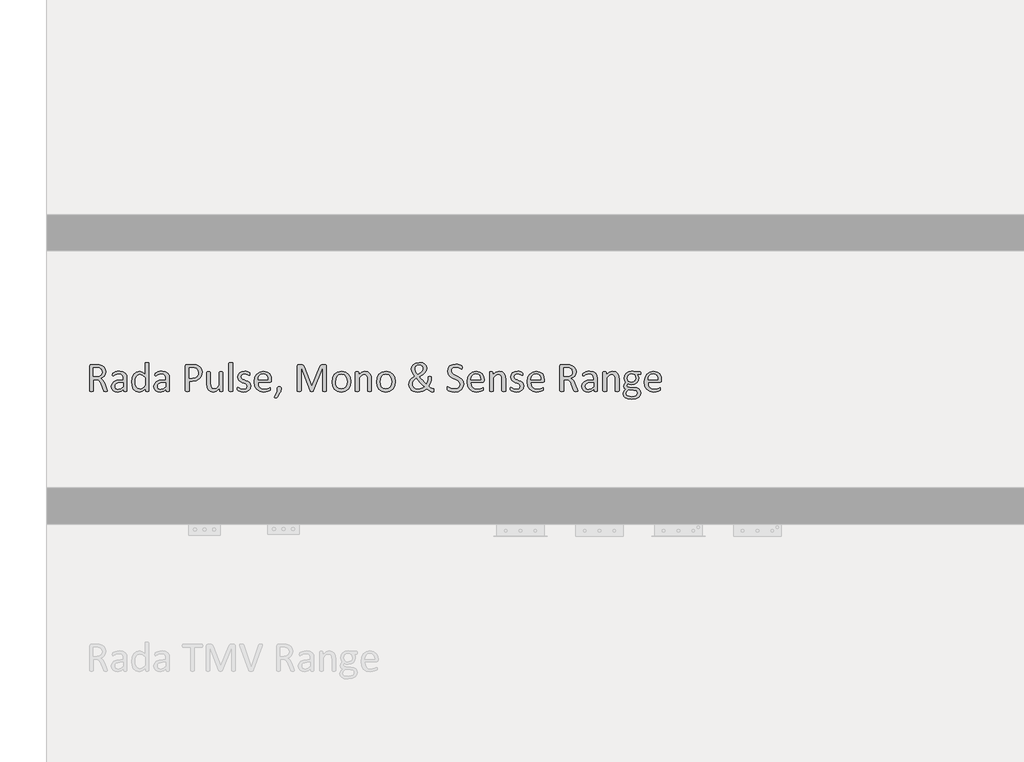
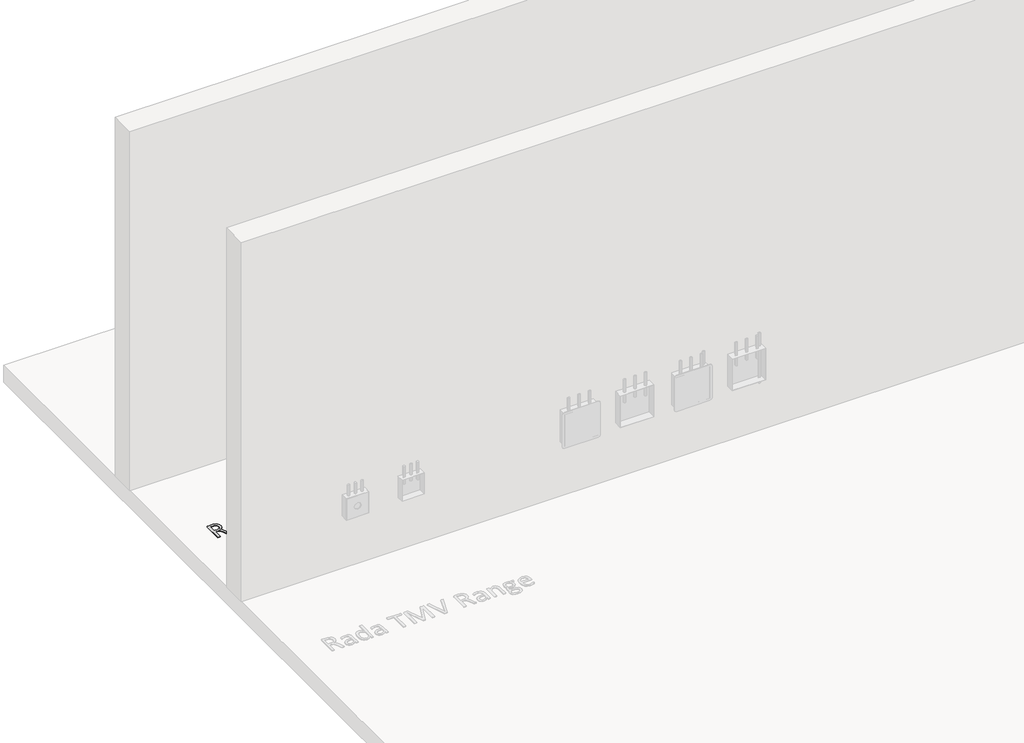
# One storey, part 3 of 3: 1 proxy.
"""IFC4 building model written with IfcOpenShell, lengths in millimetres."""

from ifc_helpers import new_model, si_unit, origin, origin_with_axes, place, context, project, spatial, polyline, outline, extrude, element, save

model = new_model("IFC4")

# Units and contexts
model_context = context("Model", 3, world=origin())
ifc_project = project(units=[si_unit("LENGTHUNIT", "METRE", prefix="MILLI")], contexts=[model_context])

# Site, building, storey
site = spatial("IfcSite", under=ifc_project)
building = spatial("IfcBuilding", under=site)
storey = spatial("IfcBuildingStorey", under=building, Name="1 Coarse & Medium", Elevation=0.0)

# Proxy
placement = place(None, origin())
element("IfcBuildingElementProxy", 1, Name="200mm Arial", ObjectType="200mm Arial", at=placement, inside=storey, context=model_context, shape_type="SweptSolid", body=[
    extrude(outline(polyline([(-2089.8724292, -5613.903187), (-2090.2566505, -5615.6962198), (-2091.9472243, -5617.0025723), (-2095.6357489, -5617.7966296), (-2101.9625931, -5618.0527772), (-2107.5209948, -5617.7966296), (-2111.0046013, -5616.9513428), (-2113.0281669, -5615.3376133), (-2114.2576751, -5612.7249083), (-2129.8826751, -5573.278187), (-2135.5435358, -5560.9318755), (-2142.4082899, -5551.2238837), (-2151.7576751, -5544.8970395), (-2164.7187407, -5542.6429411), (-2179.472839, -5542.6429411), (-2179.472839, -5613.903187), (-2180.0619784, -5615.7218346), (-2181.9318554, -5616.9513428), (-2185.415462, -5617.7197854), (-2190.9482489, -5618.0527772), (-2196.4810358, -5617.7197854), (-2200.0158718, -5616.925728), (-2201.8857489, -5615.6962198), (-2202.4236587, -5613.8519575), (-2202.4236587, -5456.7310559), (-2199.785339, -5449.5845395), (-2194.1244784, -5447.5609739), (-2158.5711997, -5447.5609739), (-2148.0691505, -5447.8939657), (-2140.4871833, -5448.6367936), (-2123.3509128, -5454.0158919), (-2110.8509128, -5463.3908919), (-2103.2945604, -5476.403187), (-2100.7843145, -5492.5404821), (-2103.0127981, -5507.9093346), (-2109.4677161, -5519.9226542), (-2119.585544, -5528.9390477), (-2132.8027571, -5535.4195805), (-2125.1695604, -5540.055851), (-2118.7914866, -5546.7669165), (-2113.2330849, -5555.7576952), (-2107.9564456, -5567.2331051), (-2092.7412817, -5604.3744985), (-2090.3847243, -5610.9318755), (-2089.8724292, -5613.903187)]), holes=[polyline([(-2123.7351341, -5494.9994985), (-2128.1152571, -5478.5548264), (-2133.9874395, -5472.7786993), (-2142.8437407, -5468.8724493), (-2150.1183308, -5467.6173264), (-2160.7740686, -5467.2331051), (-2179.472839, -5467.2331051), (-2179.472839, -5522.97081), (-2157.8027571, -5522.97081), (-2142.6388227, -5520.8704001), (-2131.9830849, -5514.9790067), (-2125.7330849, -5506.090687), (-2123.7351341, -5494.9994985)])]), origin_with_axes(), (0.0, 0.0, 1.0), 5.0),
    extrude(outline(polyline([(-1966.3580849, -5614.1081051), (-1967.4851341, -5616.4902772), (-1970.5589046, -5617.6685559), (-1976.2966095, -5618.0527772), (-1982.1111587, -5617.6685559), (-1985.2617735, -5616.4902772), (-1986.2351341, -5614.1081051), (-1986.2351341, -5602.3253182), (-2003.4994784, -5615.9523674), (-2023.6839046, -5621.3314657), (-2040.6152571, -5618.8980641), (-2053.4994784, -5611.8540067), (-2061.773044, -5600.5322854), (-2064.7187407, -5585.2658919), (-2060.6459948, -5567.8990887), (-2048.9656669, -5555.6552362), (-2030.3437407, -5548.3550313), (-2005.5486587, -5545.9216296), (-1989.3089046, -5545.9216296), (-1989.3089046, -5536.1367936), (-1990.7433308, -5523.3294165), (-1995.3539866, -5514.0568755), (-2003.5763227, -5508.4728592), (-2015.9994784, -5506.5773674), (-2030.2156669, -5508.6265477), (-2041.2300112, -5513.1347444), (-2049.1449702, -5517.6429411), (-2053.8580849, -5519.6921214), (-2055.7023472, -5519.1542116), (-2057.0599292, -5517.5148674), (-2057.9052161, -5514.6972444), (-2058.1613636, -5510.9318755), (-2057.7002981, -5505.5527772), (-2055.4461997, -5501.7874083), (-2049.2986587, -5497.9451952), (-2039.2576751, -5494.1542116), (-2026.8345194, -5491.3109739), (-2013.2330849, -5490.1839247), (-1991.460544, -5493.0783919), (-1976.9369784, -5501.5312608), (-1968.8683308, -5515.3376133), (-1966.3580849, -5534.5999083), (-1966.3580849, -5614.1081051)]), holes=[polyline([(-1989.3089046, -5562.3150723), (-2007.5466095, -5562.3150723), (-2022.7617735, -5563.8263428), (-2033.4943554, -5568.28331), (-2039.7699702, -5575.3529821), (-2041.767921, -5584.8560559), (-2040.3334948, -5593.1296214), (-2036.0302161, -5599.5076952), (-2029.1398472, -5603.5804411), (-2019.9441505, -5604.9380231), (-2004.37038, -5600.6091296), (-1989.3089046, -5587.3663018), (-1989.3089046, -5562.3150723)])]), origin_with_axes(), (0.0, 0.0, 1.0), 5.0),
    extrude(outline(polyline([(-1828.6531669, -5613.9544165), (-1829.1398472, -5615.8242936), (-1830.8048063, -5617.0794165), (-1833.9041915, -5617.7966296), (-1838.5916915, -5618.0527772), (-1843.4584948, -5617.7966296), (-1846.6347243, -5617.130646), (-1848.4277571, -5615.9779821), (-1848.9912817, -5614.2617936), (-1848.9912817, -5599.7126133), (-1868.023044, -5615.6193755), (-1889.6162817, -5621.3314657), (-1911.4400522, -5616.2341296), (-1926.0660768, -5602.4533919), (-1934.2627981, -5582.0128182), (-1936.8498882, -5557.2945805), (-1933.6224292, -5529.5025723), (-1924.0937407, -5508.3447854), (-1908.4687407, -5494.8970395), (-1886.9011177, -5490.1839247), (-1868.2791915, -5494.7689657), (-1851.6039866, -5508.2167116), (-1851.6039866, -5438.698269), (-1851.1173063, -5436.9052362), (-1849.2474292, -5435.573269), (-1845.7125931, -5434.7792116), (-1840.2822653, -5434.4462198), (-1834.5957899, -5434.7792116), (-1831.1377981, -5435.573269), (-1829.267921, -5436.8796214), (-1828.6531669, -5438.6470395), (-1828.6531669, -5613.9544165)]), holes=[polyline([(-1851.6039866, -5531.5773674), (-1868.0486587, -5515.4144575), (-1884.5957899, -5509.8560559), (-1898.1716095, -5513.7494985), (-1907.2392325, -5524.0210149), (-1912.3109538, -5538.4677362), (-1913.8990686, -5554.8355641), (-1912.5671013, -5572.1511378), (-1907.9308308, -5587.1613837), (-1899.1705849, -5597.6890477), (-1885.4666915, -5601.6593346), (-1877.4236587, -5600.5066706), (-1869.4830849, -5596.6900723), (-1861.0046013, -5589.7740887), (-1851.6039866, -5579.2720395), (-1851.6039866, -5531.5773674)])]), origin_with_axes(), (0.0, 0.0, 1.0), 5.0),
    extrude(outline(polyline([(-1697.5056259, -5614.1081051), (-1698.6326751, -5616.4902772), (-1701.7064456, -5617.6685559), (-1707.4441505, -5618.0527772), (-1713.2586997, -5617.6685559), (-1716.4093145, -5616.4902772), (-1717.3826751, -5614.1081051), (-1717.3826751, -5602.3253182), (-1734.6470194, -5615.9523674), (-1754.8314456, -5621.3314657), (-1771.7627981, -5618.8980641), (-1784.6470194, -5611.8540067), (-1792.9205849, -5600.5322854), (-1795.8662817, -5585.2658919), (-1791.7935358, -5567.8990887), (-1780.1132079, -5555.6552362), (-1761.4912817, -5548.3550313), (-1736.6961997, -5545.9216296), (-1720.4564456, -5545.9216296), (-1720.4564456, -5536.1367936), (-1721.8908718, -5523.3294165), (-1726.5015276, -5514.0568755), (-1734.7238636, -5508.4728592), (-1747.1470194, -5506.5773674), (-1761.3632079, -5508.6265477), (-1772.3775522, -5513.1347444), (-1780.2925112, -5517.6429411), (-1785.0056259, -5519.6921214), (-1786.8498882, -5519.1542116), (-1788.2074702, -5517.5148674), (-1789.0527571, -5514.6972444), (-1789.3089046, -5510.9318755), (-1788.847839, -5505.5527772), (-1786.5937407, -5501.7874083), (-1780.4461997, -5497.9451952), (-1770.4052161, -5494.1542116), (-1757.9820604, -5491.3109739), (-1744.3806259, -5490.1839247), (-1722.6080849, -5493.0783919), (-1708.0845194, -5501.5312608), (-1700.0158718, -5515.3376133), (-1697.5056259, -5534.5999083), (-1697.5056259, -5614.1081051)]), holes=[polyline([(-1720.4564456, -5562.3150723), (-1738.6941505, -5562.3150723), (-1753.9093145, -5563.8263428), (-1764.6418964, -5568.28331), (-1770.9175112, -5575.3529821), (-1772.915462, -5584.8560559), (-1771.4810358, -5593.1296214), (-1767.1777571, -5599.5076952), (-1760.2873882, -5603.5804411), (-1751.0916915, -5604.9380231), (-1735.517921, -5600.6091296), (-1720.4564456, -5587.3663018), (-1720.4564456, -5562.3150723)])]), origin_with_axes(), (0.0, 0.0, 1.0), 5.0),
    extrude(outline(polyline([(-1490.9482489, -5497.1511378), (-1495.1490686, -5520.050728), (-1507.188003, -5537.443146), (-1526.3990686, -5548.5599493), (-1553.5507079, -5552.4790067), (-1572.915462, -5552.4790067), (-1572.915462, -5613.8519575), (-1573.5046013, -5615.6706051), (-1575.3744784, -5616.925728), (-1578.8580849, -5617.7197854), (-1584.3908718, -5618.0527772), (-1589.9236587, -5617.7197854), (-1593.4584948, -5616.925728), (-1595.3283718, -5615.6962198), (-1595.8662817, -5613.8519575), (-1595.8662817, -5457.243351), (-1593.0998882, -5449.7894575), (-1586.9011177, -5447.5609739), (-1550.3232489, -5447.5609739), (-1539.7187407, -5448.0220395), (-1527.705421, -5449.9943755), (-1513.5660768, -5455.6040067), (-1501.3734538, -5465.7218346), (-1493.6634128, -5479.6562608), (-1490.9482489, -5497.1511378)]), holes=[polyline([(-1513.8990686, -5498.9441706), (-1517.8437407, -5482.2689657), (-1527.602962, -5472.3048264), (-1539.6162817, -5468.1296214), (-1551.7064456, -5467.2331051), (-1572.915462, -5467.2331051), (-1572.915462, -5532.8068755), (-1552.2187407, -5532.8068755), (-1534.9287817, -5530.2710149), (-1523.3765276, -5523.2525723), (-1516.3068554, -5512.5199903), (-1513.8990686, -5498.9441706)])]), origin_with_axes(), (0.0, 0.0, 1.0), 5.0),
    extrude(outline(polyline([(-1359.8007079, -5614.0568755), (-1360.2873882, -5615.7986788), (-1362.0035768, -5617.028187), (-1365.2566505, -5617.7966296), (-1370.1490686, -5618.0527772), (-1375.3744784, -5617.7966296), (-1378.5507079, -5617.028187), (-1380.1388227, -5615.7986788), (-1380.5486587, -5614.0568755), (-1380.5486587, -5598.6367936), (-1400.1951751, -5615.9011378), (-1419.8416915, -5621.3314657), (-1439.4113636, -5617.3867936), (-1452.2699702, -5606.7054411), (-1459.3140276, -5590.9779821), (-1461.4400522, -5569.1285969), (-1461.4400522, -5497.5097444), (-1460.9533718, -5495.7679411), (-1459.0834948, -5494.4615887), (-1455.4974292, -5493.6675313), (-1449.9646423, -5493.4626133), (-1444.4318554, -5493.6675313), (-1440.9226341, -5494.4359739), (-1439.0527571, -5495.7167116), (-1438.4892325, -5497.5097444), (-1438.4892325, -5565.5425313), (-1437.0548063, -5581.9615887), (-1432.6490686, -5592.4892526), (-1425.1695604, -5599.2515477), (-1414.6162817, -5601.6593346), (-1399.1193554, -5595.8960149), (-1382.7515276, -5578.9646624), (-1382.7515276, -5497.4585149), (-1382.2648472, -5495.7167116), (-1380.3949702, -5494.4359739), (-1376.8601341, -5493.6675313), (-1371.2761177, -5493.4626133), (-1365.7433308, -5493.6675313), (-1362.285339, -5494.4359739), (-1360.415462, -5495.7167116), (-1359.8007079, -5497.4585149), (-1359.8007079, -5614.0568755)])), origin_with_axes(), (0.0, 0.0, 1.0), 5.0),
    extrude(outline(polyline([(-1297.5056259, -5614.005646), (-1298.0691505, -5615.7474493), (-1299.8877981, -5617.0025723), (-1303.3457899, -5617.7966296), (-1309.0322653, -5618.0527772), (-1314.6162817, -5617.7966296), (-1318.1511177, -5617.0025723), (-1319.9697653, -5615.7474493), (-1320.4564456, -5614.005646), (-1320.4564456, -5438.6470395), (-1319.9697653, -5436.8027772), (-1318.1511177, -5435.4964247), (-1314.6162817, -5434.7023674), (-1309.0322653, -5434.4462198), (-1303.3457899, -5434.7023674), (-1299.8877981, -5435.4964247), (-1298.0691505, -5436.8027772), (-1297.5056259, -5438.6470395), (-1297.5056259, -5614.005646)])), origin_with_axes(), (0.0, 0.0, 1.0), 5.0),
    extrude(outline(polyline([(-1182.7515276, -5583.0117936), (-1186.1582899, -5599.3283919), (-1195.8662817, -5611.3929411), (-1210.8509128, -5618.8212198), (-1229.9851341, -5621.3314657), (-1242.2546013, -5620.153187), (-1252.6798063, -5617.1562608), (-1260.4923063, -5613.3652772), (-1265.1798063, -5609.8048264), (-1267.3314456, -5606.0394575), (-1267.9974292, -5600.0712198), (-1267.7412817, -5596.2033919), (-1267.0752981, -5593.6675313), (-1265.9482489, -5592.2587198), (-1264.3089046, -5591.823269), (-1260.0568554, -5593.8724493), (-1253.0896423, -5598.380646), (-1243.2791915, -5602.8888428), (-1230.2925112, -5604.9380231), (-1220.3027571, -5603.6829001), (-1212.5414866, -5599.9687608), (-1207.4697653, -5593.7187608), (-1205.7023472, -5584.7535969), (-1208.2382079, -5576.2751133), (-1214.9748882, -5570.153187), (-1224.375503, -5565.4400723), (-1235.1336997, -5561.1367936), (-1245.9687407, -5556.0394575), (-1255.4461997, -5549.0722444), (-1262.18288, -5539.2617936), (-1264.7187407, -5525.5835149), (-1262.0035768, -5512.135769), (-1253.8580849, -5500.8652772), (-1240.2822653, -5493.1040067), (-1221.2248882, -5490.1839247), (-1211.6961997, -5491.0548264), (-1203.0896423, -5493.2576952), (-1196.5322653, -5496.1265477), (-1192.4339046, -5498.8417116), (-1190.5896423, -5500.7884329), (-1189.9236587, -5502.4790067), (-1189.5138227, -5504.8099493), (-1189.3089046, -5508.2167116), (-1189.5138227, -5511.930851), (-1190.1798063, -5514.5179411), (-1191.3324702, -5515.9779821), (-1196.3785768, -5514.8509329), (-1202.3468145, -5511.4954001), (-1210.9533718, -5508.1398674), (-1222.2494784, -5506.5773674), (-1232.290462, -5507.8837198), (-1239.4113636, -5511.5978592), (-1243.6121833, -5517.2843346), (-1245.0466095, -5524.4052362), (-1242.3314456, -5533.0886378), (-1235.2361587, -5539.2617936), (-1225.2720194, -5544.0261378), (-1213.8990686, -5548.380646), (-1202.4492735, -5553.4267526), (-1192.4339046, -5560.1890477), (-1185.415462, -5569.743351), (-1182.7515276, -5583.0117936)])), origin_with_axes(), (0.0, 0.0, 1.0), 5.0),
    extrude(outline(polyline([(-1051.6039866, -5549.6613837), (-1054.1398472, -5556.8847444), (-1059.9543964, -5559.0363837), (-1136.8498882, -5559.0363837), (-1134.9287817, -5577.9913018), (-1128.5507079, -5592.4380231), (-1116.9216095, -5601.7105641), (-1099.4011177, -5604.9380231), (-1084.8519374, -5603.4267526), (-1073.7863636, -5600.0199903), (-1066.1275522, -5596.613228), (-1061.5937407, -5595.1019575), (-1060.0056259, -5595.5374083), (-1058.9041915, -5596.818146), (-1058.3406669, -5599.2003182), (-1058.1613636, -5602.9400723), (-1058.2894374, -5605.680851), (-1058.6224292, -5607.755646), (-1059.2627981, -5609.4206051), (-1060.415462, -5610.8294165), (-1064.5906669, -5613.3140477), (-1073.5814456, -5616.8488837), (-1086.3888227, -5619.948269), (-1101.9113636, -5621.3314657), (-1126.9369784, -5617.2331051), (-1144.99538, -5605.0404821), (-1156.0609538, -5584.7279821), (-1159.8007079, -5556.3724493), (-1155.8816505, -5528.7085149), (-1144.585544, -5507.9093346), (-1126.7576751, -5494.7689657), (-1103.3457899, -5490.1839247), (-1079.7802161, -5494.6152772), (-1063.7709948, -5506.5517526), (-1054.5496833, -5524.1490887), (-1051.6039866, -5545.7167116), (-1051.6039866, -5549.6613837)]), holes=[polyline([(-1074.5548063, -5542.6429411), (-1076.2133616, -5527.6006768), (-1081.9062407, -5516.1829001), (-1091.4925624, -5508.9787505), (-1104.8314456, -5506.5773674), (-1118.4841095, -5509.5486788), (-1128.2945604, -5517.4636378), (-1134.4164866, -5528.9646624), (-1136.8498882, -5542.6429411), (-1074.5548063, -5542.6429411)])]), origin_with_axes(), (0.0, 0.0, 1.0), 5.0),
    extrude(outline(polyline([(-989.7699702, -5599.4052362), (-990.1798063, -5607.0384329), (-991.5117735, -5613.59581), (-993.9195604, -5619.6921214), (-997.6593145, -5626.0445805), (-1015.6408718, -5653.6572854), (-1017.1521423, -5655.2454001), (-1019.2525522, -5656.4492936), (-1022.1470194, -5657.1921214), (-1026.2966095, -5657.3970395), (-1030.0107489, -5657.1921214), (-1032.188003, -5656.5261378), (-1032.4441505, -5653.4011378), (-1014.9748882, -5616.5158919), (-1014.9748882, -5599.4052362), (-1014.2576751, -5593.6419165), (-1011.977962, -5590.4400723), (-1008.0332899, -5588.9544165), (-1002.2699702, -5588.5445805), (-996.6091095, -5588.9544165), (-992.7156669, -5590.4400723), (-990.4871833, -5593.6419165), (-989.7699702, -5599.4052362)])), origin_with_axes(), (0.0, 0.0, 1.0), 5.0),
    extrude(outline(polyline([(-704.063003, -5613.8519575), (-704.6009128, -5615.6962198), (-706.5220194, -5616.925728), (-710.0312407, -5617.7197854), (-715.5896423, -5618.0527772), (-721.0455849, -5617.7197854), (-724.6316505, -5616.925728), (-726.4759128, -5615.6962198), (-727.0138227, -5613.8519575), (-727.0138227, -5466.0548264), (-785.62038, -5614.5179411), (-786.7474292, -5616.0804411), (-788.847839, -5617.1818755), (-792.1265276, -5617.8478592), (-796.6347243, -5618.0527772), (-801.3734538, -5617.7966296), (-804.6777571, -5617.0794165), (-806.7269374, -5615.9523674), (-807.7002981, -5614.5179411), (-864.6162817, -5466.0548264), (-864.6162817, -5613.8519575), (-865.2566505, -5615.6962198), (-867.1777571, -5616.925728), (-870.7638227, -5617.7197854), (-876.3990686, -5618.0527772), (-881.8806259, -5617.7197854), (-885.3898472, -5616.925728), (-887.18288, -5615.6962198), (-887.6695604, -5613.8519575), (-887.6695604, -5457.8068755), (-884.7238636, -5449.9175313), (-878.1408718, -5447.5609739), (-864.1552161, -5447.5609739), (-856.6244784, -5448.3550313), (-850.9892325, -5450.8396624), (-846.9677161, -5455.1685559), (-844.1244784, -5461.3417116), (-795.8662817, -5584.2413018), (-746.1736587, -5461.7003182), (-742.9461997, -5455.0148674), (-739.1039866, -5450.6347444), (-734.4677161, -5448.278187), (-728.5507079, -5447.5609739), (-713.8990686, -5447.5609739), (-710.0312407, -5448.1501133), (-706.9574702, -5449.9943755), (-704.8826751, -5453.1449903), (-704.063003, -5457.8068755), (-704.063003, -5613.8519575)])), origin_with_axes(), (0.0, 0.0, 1.0), 5.0),
    extrude(outline(polyline([(-549.9646423, -5554.4769575), (-553.7556259, -5581.3468346), (-565.102962, -5602.5046214), (-584.0066505, -5616.3622034), (-610.313003, -5621.3314657), (-635.6716095, -5616.9513428), (-653.7043964, -5604.22081), (-664.4625931, -5583.9339247), (-667.9974292, -5556.8847444), (-664.2576751, -5530.0148674), (-652.9871833, -5508.8826952), (-634.160339, -5495.1019575), (-607.8027571, -5490.1839247), (-582.4185358, -5494.5640477), (-564.3857489, -5507.2945805), (-553.5763227, -5527.5814657), (-549.9646423, -5554.4769575)]), holes=[polyline([(-572.915462, -5556.0138428), (-574.68288, -5538.2115887), (-580.4974292, -5523.5087198), (-591.4349292, -5513.5189657), (-608.6736587, -5509.8560559), (-625.0414866, -5513.2115887), (-636.3119784, -5522.6890477), (-642.8949702, -5537.1869985), (-645.0466095, -5555.5015477), (-643.2791915, -5573.4062608), (-637.4134128, -5588.0579001), (-626.3990686, -5597.9964247), (-609.1859538, -5601.6593346), (-592.8693554, -5598.3038018), (-581.5220194, -5588.903187), (-574.9902571, -5574.4564657), (-572.915462, -5556.0138428)])]), origin_with_axes(), (0.0, 0.0, 1.0), 5.0),
    extrude(outline(polyline([(-418.8171013, -5614.005646), (-419.3806259, -5615.7474493), (-421.1992735, -5617.0025723), (-424.6572653, -5617.7966296), (-430.2412817, -5618.0527772), (-435.9277571, -5617.7966296), (-439.3857489, -5617.028187), (-441.2043964, -5615.7986788), (-441.767921, -5614.005646), (-441.767921, -5545.5630231), (-443.2791915, -5529.4769575), (-447.6593145, -5518.9492936), (-455.1132079, -5512.1869985), (-465.6921013, -5509.8560559), (-481.2402571, -5515.568146), (-497.5056259, -5532.34581), (-497.5056259, -5614.005646), (-498.0691505, -5615.7986788), (-499.8877981, -5617.028187), (-503.3457899, -5617.7966296), (-509.0322653, -5618.0527772), (-514.6162817, -5617.7966296), (-518.1511177, -5617.028187), (-519.9697653, -5615.7986788), (-520.4564456, -5614.0568755), (-520.4564456, -5497.4585149), (-520.0466095, -5495.7167116), (-518.3816505, -5494.4359739), (-515.1798063, -5493.6675313), (-510.0056259, -5493.4626133), (-504.9339046, -5493.6675313), (-501.8089046, -5494.4359739), (-500.1951751, -5495.7167116), (-499.7084948, -5497.4585149), (-499.7084948, -5512.8785969), (-480.1132079, -5495.6398674), (-460.415462, -5490.1839247), (-440.8457899, -5494.1798264), (-427.9871833, -5504.8611788), (-420.9431259, -5520.5117936), (-418.8171013, -5542.0794165), (-418.8171013, -5614.005646)])), origin_with_axes(), (0.0, 0.0, 1.0), 5.0),
    extrude(outline(polyline([(-267.9974292, -5554.4769575), (-271.7884128, -5581.3468346), (-283.1357489, -5602.5046214), (-302.0394374, -5616.3622034), (-328.3457899, -5621.3314657), (-353.7043964, -5616.9513428), (-371.7371833, -5604.22081), (-382.49538, -5583.9339247), (-386.0302161, -5556.8847444), (-382.290462, -5530.0148674), (-371.0199702, -5508.8826952), (-352.1931259, -5495.1019575), (-325.835544, -5490.1839247), (-300.4513227, -5494.5640477), (-282.4185358, -5507.2945805), (-271.6091095, -5527.5814657), (-267.9974292, -5554.4769575)]), holes=[polyline([(-290.9482489, -5556.0138428), (-292.7156669, -5538.2115887), (-298.5302161, -5523.5087198), (-309.4677161, -5513.5189657), (-326.7064456, -5509.8560559), (-343.0742735, -5513.2115887), (-354.3447653, -5522.6890477), (-360.9277571, -5537.1869985), (-363.0793964, -5555.5015477), (-361.3119784, -5573.4062608), (-355.4461997, -5588.0579001), (-344.4318554, -5597.9964247), (-327.2187407, -5601.6593346), (-310.9021423, -5598.3038018), (-299.5548063, -5588.903187), (-293.023044, -5574.4564657), (-290.9482489, -5556.0138428)])]), origin_with_axes(), (0.0, 0.0, 1.0), 5.0),
    extrude(outline(polyline([(-181.6757079, -5572.4072854), (-179.7033718, -5558.1910969), (-173.5302161, -5545.1275723), (-162.5671013, -5532.8581051), (-146.2248882, -5520.9216296), (-155.2412817, -5507.6019575), (-161.4144374, -5496.4339247), (-164.898044, -5486.5466296), (-165.9482489, -5477.0691706), (-163.1818554, -5460.9318755), (-154.3191505, -5447.3304411), (-138.642921, -5437.9298264), (-115.3847243, -5434.4462198), (-95.3796013, -5437.03331), (-81.3171013, -5444.3847444), (-72.915462, -5455.9113837), (-70.097839, -5470.9728592), (-72.5824702, -5485.675728), (-80.5998882, -5498.6111788), (-94.7136177, -5511.0855641), (-115.5384128, -5524.0978592), (-105.830421, -5535.7269575), (-94.8673063, -5547.9195805), (-83.1613636, -5559.9841296), (-71.4298063, -5571.3314657), (-66.665462, -5563.1859739), (-63.0025522, -5553.5548264), (-60.6459948, -5543.180851), (-59.8519374, -5532.4994985), (-59.8519374, -5527.7351542), (-59.3908718, -5525.5579001), (-57.8796013, -5524.0978592), (-54.8058308, -5523.2269575), (-49.5035768, -5522.97081), (-44.5599292, -5523.0988837), (-41.2300112, -5523.6880231), (-39.3345194, -5525.1480641), (-38.74538, -5527.8888428), (-38.74538, -5531.2187608), (-39.9748882, -5545.8447854), (-43.3816505, -5559.8816706), (-48.7607489, -5572.97081), (-55.9072653, -5584.5486788), (-45.6101341, -5592.6941706), (-38.1306259, -5597.9964247), (-33.0076751, -5600.8396624), (-29.6777571, -5601.6593346), (-27.1675112, -5601.5312608), (-25.2720194, -5601.9410969), (-24.1705849, -5604.1439657), (-23.7863636, -5609.2413018), (-23.9144374, -5614.7228592), (-24.3498882, -5617.8222444), (-25.4513227, -5619.5640477), (-28.3457899, -5620.7935559), (-33.8785768, -5621.3314657), (-39.6418964, -5620.3837198), (-46.9933308, -5617.028187), (-56.7781669, -5610.4964247), (-69.8416915, -5600.0712198), (-81.4707899, -5608.6521624), (-94.4574702, -5615.4144575), (-108.9041915, -5619.7689657), (-125.2207899, -5621.3314657), (-140.9226341, -5619.84581), (-154.6265276, -5615.5425313), (-165.9226341, -5608.5240887), (-174.4011177, -5598.9441706), (-179.7802161, -5586.8796214), (-181.6757079, -5572.4072854)]), holes=[polyline([(-158.2125931, -5569.7945805), (-155.9072653, -5582.6275723), (-149.1449702, -5592.6941706), (-137.9769374, -5599.3027772), (-122.5056259, -5601.6593346), (-111.977962, -5600.5579001), (-102.2187407, -5597.5353592), (-93.3560358, -5592.9503182), (-85.5691505, -5587.2638428), (-99.1961997, -5574.53331), (-112.2597243, -5561.2648674), (-124.4011177, -5547.97081), (-135.1080849, -5535.1122034), (-146.0455849, -5543.6675313), (-153.1152571, -5552.1716296), (-157.0086997, -5560.7525723), (-158.2125931, -5569.7945805)]), polyline([(-142.9461997, -5473.9954001), (-141.972839, -5481.7822854), (-138.9502981, -5490.0302362), (-133.955421, -5499.2771624), (-126.9625931, -5510.3171214), (-110.8765276, -5499.6613837), (-100.4257079, -5490.260769), (-94.7136177, -5481.2187608), (-92.9461997, -5471.5876133), (-94.3293964, -5463.7494985), (-98.7351341, -5457.1152772), (-106.3427161, -5452.5302362), (-117.3826751, -5450.8396624), (-129.0886177, -5452.7351542), (-136.977962, -5457.8324903), (-141.5117735, -5465.260769), (-142.9461997, -5473.9954001)])]), origin_with_axes(), (0.0, 0.0, 1.0), 5.0),
    extrude(outline(polyline([(164.789456, -5570.5630231), (160.3837183, -5592.0794165), (148.1142511, -5608.0886378), (129.6460134, -5618.0015477), (106.7976528, -5621.3314657), (90.9165052, -5620.050728), (77.8529806, -5616.9001133), (68.2218331, -5613.0322854), (62.81712, -5609.6255231), (60.5886364, -5605.680851), (59.8714232, -5598.9441706), (60.1275708, -5593.9492936), (60.9216282, -5590.7474493), (62.2535954, -5589.0312608), (64.1234724, -5588.5445805), (69.374497, -5590.5937608), (78.1091282, -5595.050728), (90.94212, -5599.5589247), (108.2833085, -5601.6593346), (121.9359724, -5599.6613837), (132.5660954, -5594.0261378), (139.4308495, -5585.1122034), (141.8386364, -5573.073269), (138.4574888, -5560.573269), (129.5691692, -5551.4800313), (116.9923249, -5544.3079001), (102.4943741, -5537.6480641), (88.0732675, -5530.1429411), (75.5476528, -5520.4605641), (66.5824888, -5507.34581), (63.1501118, -5489.3642526), (67.0691692, -5470.1275723), (77.9554396, -5455.988228), (94.5538003, -5447.2792116), (115.3529806, -5444.2822854), (126.8540052, -5445.3837198), (137.7402757, -5448.3038018), (146.8591282, -5452.3765477), (152.1101528, -5456.0138428), (153.749497, -5458.1398674), (154.4154806, -5460.0353592), (154.8253167, -5462.8273674), (154.9533905, -5467.028187), (154.7484724, -5471.3826952), (154.1593331, -5474.5589247), (153.0322839, -5476.4544165), (151.3673249, -5477.0691706), (146.7566692, -5475.0712198), (139.0722429, -5470.5886378), (128.3140462, -5466.0292116), (114.37962, -5463.9544165), (101.8540052, -5465.8242936), (93.0425298, -5470.7935559), (87.8427347, -5478.1706051), (86.1009314, -5487.2126133), (89.4308495, -5499.5589247), (98.3191692, -5508.7290067), (110.9472429, -5516.0548264), (125.3683495, -5522.7658919), (139.8150708, -5530.2197854), (152.4431446, -5539.7997034), (161.3826937, -5552.8119985), (164.789456, -5570.5630231)])), origin_with_axes(), (0.0, 0.0, 1.0), 5.0),
    extrude(outline(polyline([(295.936997, -5549.6613837), (293.4011364, -5556.8847444), (287.5865872, -5559.0363837), (210.6910954, -5559.0363837), (212.6122019, -5577.9913018), (218.9902757, -5592.4380231), (230.6193741, -5601.7105641), (248.1398659, -5604.9380231), (262.6890462, -5603.4267526), (273.75462, -5600.0199903), (281.4134314, -5596.613228), (285.9472429, -5595.1019575), (287.5353577, -5595.5374083), (288.6367921, -5596.818146), (289.2003167, -5599.2003182), (289.37962, -5602.9400723), (289.2515462, -5605.680851), (288.9185544, -5607.755646), (288.2781855, -5609.4206051), (287.1255216, -5610.8294165), (282.9503167, -5613.3140477), (273.959538, -5616.8488837), (261.152161, -5619.948269), (245.62962, -5621.3314657), (220.6040052, -5617.2331051), (202.5456036, -5605.0404821), (191.4800298, -5584.7279821), (187.7402757, -5556.3724493), (191.6593331, -5528.7085149), (202.9554396, -5507.9093346), (220.7833085, -5494.7689657), (244.1951937, -5490.1839247), (267.7607675, -5494.6152772), (283.7699888, -5506.5517526), (292.9913003, -5524.1490887), (295.936997, -5545.7167116), (295.936997, -5549.6613837)]), holes=[polyline([(272.9861773, -5542.6429411), (271.327622, -5527.6006768), (265.6347429, -5516.1829001), (256.0484212, -5508.9787505), (242.709538, -5506.5773674), (229.0568741, -5509.5486788), (219.2464232, -5517.4636378), (213.124497, -5528.9646624), (210.6910954, -5542.6429411), (272.9861773, -5542.6429411)])]), origin_with_axes(), (0.0, 0.0, 1.0), 5.0),
    extrude(outline(polyline([(430.3632265, -5614.005646), (429.7997019, -5615.7474493), (427.9810544, -5617.0025723), (424.5230626, -5617.7966296), (418.9390462, -5618.0527772), (413.2525708, -5617.7966296), (409.794579, -5617.028187), (407.9759314, -5615.7986788), (407.4124069, -5614.005646), (407.4124069, -5545.5630231), (405.9011364, -5529.4769575), (401.5210134, -5518.9492936), (394.06712, -5512.1869985), (383.4882265, -5509.8560559), (367.9400708, -5515.568146), (351.6747019, -5532.34581), (351.6747019, -5614.005646), (351.1111773, -5615.7986788), (349.2925298, -5617.028187), (345.834538, -5617.7966296), (340.1480626, -5618.0527772), (334.5640462, -5617.7966296), (331.0292101, -5617.028187), (329.2105626, -5615.7986788), (328.7238823, -5614.0568755), (328.7238823, -5497.4585149), (329.1337183, -5495.7167116), (330.7986773, -5494.4359739), (334.0005216, -5493.6675313), (339.1747019, -5493.4626133), (344.2464232, -5493.6675313), (347.3714232, -5494.4359739), (348.9851528, -5495.7167116), (349.4718331, -5497.4585149), (349.4718331, -5512.8785969), (369.06712, -5495.6398674), (388.7648659, -5490.1839247), (408.334538, -5494.1798264), (421.1931446, -5504.8611788), (428.2372019, -5520.5117936), (430.3632265, -5542.0794165), (430.3632265, -5614.005646)])), origin_with_axes(), (0.0, 0.0, 1.0), 5.0),
    extrude(outline(polyline([(545.1173249, -5583.0117936), (541.7105626, -5599.3283919), (532.0025708, -5611.3929411), (517.0179396, -5618.8212198), (497.8837183, -5621.3314657), (485.6142511, -5620.153187), (475.1890462, -5617.1562608), (467.3765462, -5613.3652772), (462.6890462, -5609.8048264), (460.5374069, -5606.0394575), (459.8714232, -5600.0712198), (460.1275708, -5596.2033919), (460.7935544, -5593.6675313), (461.9206036, -5592.2587198), (463.5599478, -5591.823269), (467.811997, -5593.8724493), (474.7792101, -5598.380646), (484.589661, -5602.8888428), (497.5763413, -5604.9380231), (507.5660954, -5603.6829001), (515.3273659, -5599.9687608), (520.3990872, -5593.7187608), (522.1665052, -5584.7535969), (519.6306446, -5576.2751133), (512.8939642, -5570.153187), (503.4933495, -5565.4400723), (492.7351528, -5561.1367936), (481.9001118, -5556.0394575), (472.4226528, -5549.0722444), (465.6859724, -5539.2617936), (463.1501118, -5525.5835149), (465.8652757, -5512.135769), (474.0107675, -5500.8652772), (487.5865872, -5493.1040067), (506.6439642, -5490.1839247), (516.1726528, -5491.0548264), (524.7792101, -5493.2576952), (531.3365872, -5496.1265477), (535.4349478, -5498.8417116), (537.2792101, -5500.7884329), (537.9451937, -5502.4790067), (538.3550298, -5504.8099493), (538.5599478, -5508.2167116), (538.3550298, -5511.930851), (537.6890462, -5514.5179411), (536.5363823, -5515.9779821), (531.4902757, -5514.8509329), (525.522038, -5511.4954001), (516.9154806, -5508.1398674), (505.6193741, -5506.5773674), (495.5783905, -5507.8837198), (488.4574888, -5511.5978592), (484.2566692, -5517.2843346), (482.8222429, -5524.4052362), (485.5374069, -5533.0886378), (492.6326937, -5539.2617936), (502.5968331, -5544.0261378), (513.9697839, -5548.380646), (525.419579, -5553.4267526), (535.4349478, -5560.1890477), (542.4533905, -5569.743351), (545.1173249, -5583.0117936)])), origin_with_axes(), (0.0, 0.0, 1.0), 5.0),
    extrude(outline(polyline([(676.2648659, -5549.6613837), (673.7290052, -5556.8847444), (667.914456, -5559.0363837), (591.0189642, -5559.0363837), (592.9400708, -5577.9913018), (599.3181446, -5592.4380231), (610.9472429, -5601.7105641), (628.4677347, -5604.9380231), (643.0169151, -5603.4267526), (654.0824888, -5600.0199903), (661.7413003, -5596.613228), (666.2751118, -5595.1019575), (667.8632265, -5595.5374083), (668.964661, -5596.818146), (669.5281855, -5599.2003182), (669.7074888, -5602.9400723), (669.5794151, -5605.680851), (669.2464232, -5607.755646), (668.6060544, -5609.4206051), (667.4533905, -5610.8294165), (663.2781855, -5613.3140477), (654.2874069, -5616.8488837), (641.4800298, -5619.948269), (625.9574888, -5621.3314657), (600.9318741, -5617.2331051), (582.8734724, -5605.0404821), (571.8078987, -5584.7279821), (568.0681446, -5556.3724493), (571.9872019, -5528.7085149), (583.2833085, -5507.9093346), (601.1111773, -5494.7689657), (624.5230626, -5490.1839247), (648.0886364, -5494.6152772), (664.0978577, -5506.5517526), (673.3191692, -5524.1490887), (676.2648659, -5545.7167116), (676.2648659, -5549.6613837)]), holes=[polyline([(653.3140462, -5542.6429411), (651.6554909, -5527.6006768), (645.9626118, -5516.1829001), (636.3762901, -5508.9787505), (623.0374069, -5506.5773674), (609.3847429, -5509.5486788), (599.5742921, -5517.4636378), (593.4523659, -5528.9646624), (591.0189642, -5542.6429411), (653.3140462, -5542.6429411)])]), origin_with_axes(), (0.0, 0.0, 1.0), 5.0),
    extrude(outline(polyline([(887.1767511, -5613.903187), (886.7925298, -5615.6962198), (885.101956, -5617.0025723), (881.4134314, -5617.7966296), (875.0865872, -5618.0527772), (869.5281855, -5617.7966296), (866.044579, -5616.9513428), (864.0210134, -5615.3376133), (862.7915052, -5612.7249083), (847.1665052, -5573.278187), (841.5056446, -5560.9318755), (834.6408905, -5551.2238837), (825.2915052, -5544.8970395), (812.3304396, -5542.6429411), (797.5763413, -5542.6429411), (797.5763413, -5613.903187), (796.9872019, -5615.7218346), (795.1173249, -5616.9513428), (791.6337183, -5617.7197854), (786.1009314, -5618.0527772), (780.5681446, -5617.7197854), (777.0333085, -5616.925728), (775.1634314, -5615.6962198), (774.6255216, -5613.8519575), (774.6255216, -5456.7310559), (777.2638413, -5449.5845395), (782.9247019, -5447.5609739), (818.4779806, -5447.5609739), (828.9800298, -5447.8939657), (836.561997, -5448.6367936), (853.6982675, -5454.0158919), (866.1982675, -5463.3908919), (873.75462, -5476.403187), (876.2648659, -5492.5404821), (874.0363823, -5507.9093346), (867.5814642, -5519.9226542), (857.4636364, -5528.9390477), (844.2464232, -5535.4195805), (851.87962, -5540.055851), (858.2576937, -5546.7669165), (863.8160954, -5555.7576952), (869.0927347, -5567.2331051), (884.3078987, -5604.3744985), (886.664456, -5610.9318755), (887.1767511, -5613.903187)]), holes=[polyline([(853.3140462, -5494.9994985), (848.9339232, -5478.5548264), (843.0617409, -5472.7786993), (834.2054396, -5468.8724493), (826.9308495, -5467.6173264), (816.2751118, -5467.2331051), (797.5763413, -5467.2331051), (797.5763413, -5522.97081), (819.2464232, -5522.97081), (834.4103577, -5520.8704001), (845.0660954, -5514.9790067), (851.3160954, -5506.090687), (853.3140462, -5494.9994985)])]), origin_with_axes(), (0.0, 0.0, 1.0), 5.0),
    extrude(outline(polyline([(1010.6910954, -5614.1081051), (1009.5640462, -5616.4902772), (1006.4902757, -5617.6685559), (1000.7525708, -5618.0527772), (994.9380216, -5617.6685559), (991.7874069, -5616.4902772), (990.8140462, -5614.1081051), (990.8140462, -5602.3253182), (973.5497019, -5615.9523674), (953.3652757, -5621.3314657), (936.4339232, -5618.8980641), (923.5497019, -5611.8540067), (915.2761364, -5600.5322854), (912.3304396, -5585.2658919), (916.4031855, -5567.8990887), (928.0835134, -5555.6552362), (946.7054396, -5548.3550313), (971.5005216, -5545.9216296), (987.7402757, -5545.9216296), (987.7402757, -5536.1367936), (986.3058495, -5523.3294165), (981.6951937, -5514.0568755), (973.4728577, -5508.4728592), (961.0497019, -5506.5773674), (946.8335134, -5508.6265477), (935.8191692, -5513.1347444), (927.9042101, -5517.6429411), (923.1910954, -5519.6921214), (921.3468331, -5519.1542116), (919.9892511, -5517.5148674), (919.1439642, -5514.6972444), (918.8878167, -5510.9318755), (919.3488823, -5505.5527772), (921.6029806, -5501.7874083), (927.7505216, -5497.9451952), (937.7915052, -5494.1542116), (950.214661, -5491.3109739), (963.8160954, -5490.1839247), (985.5886364, -5493.0783919), (1000.1122019, -5501.5312608), (1008.1808495, -5515.3376133), (1010.6910954, -5534.5999083), (1010.6910954, -5614.1081051)]), holes=[polyline([(987.7402757, -5562.3150723), (969.5025708, -5562.3150723), (954.2874069, -5563.8263428), (943.5548249, -5568.28331), (937.2792101, -5575.3529821), (935.2812593, -5584.8560559), (936.7156855, -5593.1296214), (941.0189642, -5599.5076952), (947.9093331, -5603.5804411), (957.1050298, -5604.9380231), (972.6788003, -5600.6091296), (987.7402757, -5587.3663018), (987.7402757, -5562.3150723)])]), origin_with_axes(), (0.0, 0.0, 1.0), 5.0),
    extrude(outline(polyline([(1148.3960134, -5614.005646), (1147.8324888, -5615.7474493), (1146.0138413, -5617.0025723), (1142.5558495, -5617.7966296), (1136.9718331, -5618.0527772), (1131.2853577, -5617.7966296), (1127.8273659, -5617.028187), (1126.0087183, -5615.7986788), (1125.4451937, -5614.005646), (1125.4451937, -5545.5630231), (1123.9339232, -5529.4769575), (1119.5538003, -5518.9492936), (1112.0999069, -5512.1869985), (1101.5210134, -5509.8560559), (1085.9728577, -5515.568146), (1069.7074888, -5532.34581), (1069.7074888, -5614.005646), (1069.1439642, -5615.7986788), (1067.3253167, -5617.028187), (1063.8673249, -5617.7966296), (1058.1808495, -5618.0527772), (1052.5968331, -5617.7966296), (1049.061997, -5617.028187), (1047.2433495, -5615.7986788), (1046.7566692, -5614.0568755), (1046.7566692, -5497.4585149), (1047.1665052, -5495.7167116), (1048.8314642, -5494.4359739), (1052.0333085, -5493.6675313), (1057.2074888, -5493.4626133), (1062.2792101, -5493.6675313), (1065.4042101, -5494.4359739), (1067.0179396, -5495.7167116), (1067.50462, -5497.4585149), (1067.50462, -5512.8785969), (1087.0999069, -5495.6398674), (1106.7976528, -5490.1839247), (1126.3673249, -5494.1798264), (1139.2259314, -5504.8611788), (1146.2699888, -5520.5117936), (1148.3960134, -5542.0794165), (1148.3960134, -5614.005646)])), origin_with_axes(), (0.0, 0.0, 1.0), 5.0),
    extrude(outline(polyline([(1286.1009314, -5501.7105641), (1284.8458085, -5507.9349493), (1281.6439642, -5509.8560559), (1264.686997, -5509.8560559), (1271.1419151, -5520.4605641), (1272.9861773, -5532.4994985), (1269.7074888, -5550.7372034), (1260.3068741, -5564.1593346), (1245.7576937, -5572.5353592), (1227.084538, -5575.4298264), (1213.3294151, -5573.5087198), (1203.2628167, -5568.6675313), (1199.164456, -5574.0210149), (1197.5763413, -5580.9626133), (1201.9308495, -5588.5445805), (1213.5087183, -5591.823269), (1244.9636364, -5593.1552362), (1261.459538, -5595.6398674), (1274.4462183, -5601.9667116), (1283.027161, -5612.03331), (1286.1009314, -5625.8908919), (1282.6685544, -5641.7464247), (1272.1408905, -5654.9636378), (1254.0568741, -5663.9544165), (1228.1091282, -5667.2331051), (1203.544579, -5664.7740887), (1186.9462183, -5658.0630231), (1177.5456036, -5647.8939657), (1174.6255216, -5635.1122034), (1175.6757265, -5626.5824903), (1178.9031855, -5618.7443755), (1184.2822839, -5611.6490887), (1191.6849478, -5604.9380231), (1181.2853577, -5596.510769), (1177.9042101, -5585.5220395), (1181.3878167, -5570.9472444), (1189.9943741, -5559.4462198), (1183.539456, -5548.4318755), (1181.1828987, -5533.5240887), (1184.589661, -5515.3119985), (1194.06712, -5501.6849493), (1208.6163003, -5493.1552362), (1227.084538, -5490.1839247), (1237.1255216, -5491.0548264), (1245.8857675, -5493.4626133), (1281.6439642, -5493.4626133), (1284.9738823, -5495.4861788), (1286.1009314, -5501.7105641)]), holes=[polyline([(1253.3140462, -5532.653187), (1251.5850503, -5521.7092833), (1246.3980626, -5513.4677362), (1238.022038, -5508.2999596), (1226.7259314, -5506.5773674), (1215.3017511, -5508.7290067), (1207.2074888, -5514.6204001), (1202.4175298, -5523.2525723), (1200.8550298, -5533.4728592), (1202.5840257, -5544.1285969), (1207.7710134, -5552.2228592), (1216.0701937, -5557.3330026), (1227.1357675, -5559.0363837), (1238.7904806, -5556.9615887), (1246.9615872, -5551.198269), (1251.7515462, -5542.6941706), (1253.3140462, -5532.653187)]), polyline([(1263.1501118, -5626.6081051), (1261.561997, -5619.3911481), (1256.7976528, -5614.0312608), (1239.6357675, -5609.3437608), (1208.4882265, -5608.2167116), (1201.4441692, -5614.8765477), (1197.089661, -5620.9216296), (1194.8867921, -5626.5824903), (1194.2976528, -5632.34581), (1196.5005216, -5640.3568243), (1203.1091282, -5646.1521624), (1227.6992921, -5650.8396624), (1244.5025708, -5648.8160969), (1255.414456, -5643.4113837), (1261.357079, -5635.7013428), (1263.1501118, -5626.6081051)])]), origin_with_axes(), (0.0, 0.0, 1.0), 5.0),
    extrude(outline(polyline([(1417.2484724, -5549.6613837), (1414.7126118, -5556.8847444), (1408.8980626, -5559.0363837), (1332.0025708, -5559.0363837), (1333.9236773, -5577.9913018), (1340.3017511, -5592.4380231), (1351.9308495, -5601.7105641), (1369.4513413, -5604.9380231), (1384.0005216, -5603.4267526), (1395.0660954, -5600.0199903), (1402.7249069, -5596.613228), (1407.2587183, -5595.1019575), (1408.8468331, -5595.5374083), (1409.9482675, -5596.818146), (1410.5117921, -5599.2003182), (1410.6910954, -5602.9400723), (1410.5630216, -5605.680851), (1410.2300298, -5607.755646), (1409.589661, -5609.4206051), (1408.436997, -5610.8294165), (1404.2617921, -5613.3140477), (1395.2710134, -5616.8488837), (1382.4636364, -5619.948269), (1366.9410954, -5621.3314657), (1341.9154806, -5617.2331051), (1323.857079, -5605.0404821), (1312.7915052, -5584.7279821), (1309.0517511, -5556.3724493), (1312.9708085, -5528.7085149), (1324.2669151, -5507.9093346), (1342.0947839, -5494.7689657), (1365.5066692, -5490.1839247), (1389.0722429, -5494.6152772), (1405.0814642, -5506.5517526), (1414.3027757, -5524.1490887), (1417.2484724, -5545.7167116), (1417.2484724, -5549.6613837)]), holes=[polyline([(1394.2976528, -5542.6429411), (1392.6390974, -5527.6006768), (1386.9462183, -5516.1829001), (1377.3598966, -5508.9787505), (1364.0210134, -5506.5773674), (1350.3683495, -5509.5486788), (1340.5578987, -5517.4636378), (1334.4359724, -5528.9646624), (1332.0025708, -5542.6429411), (1394.2976528, -5542.6429411)])]), origin_with_axes(), (0.0, 0.0, 1.0), 5.0),
])

save(model, "model.ifc")
